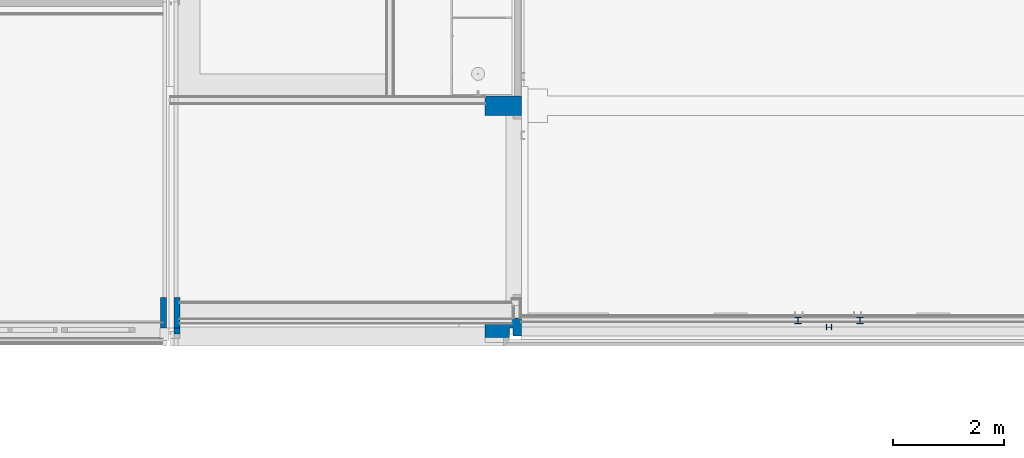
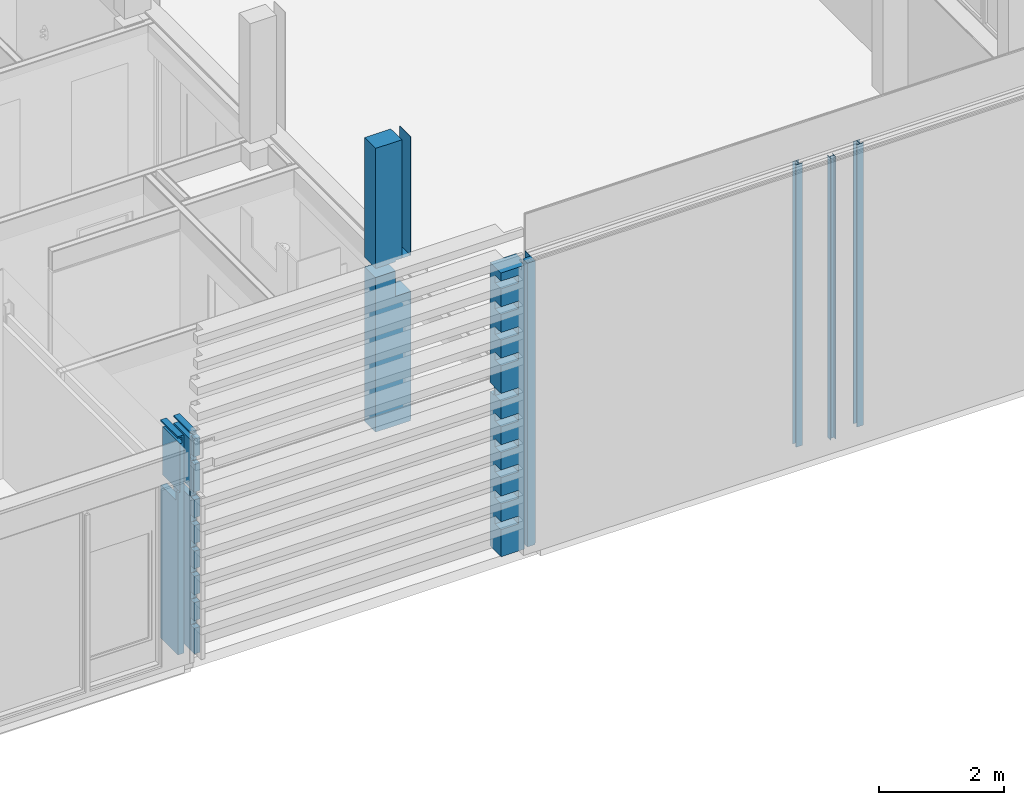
# One storey, part 6 of 109: 7 columns.
"""IFC2X3 building model written with IfcOpenShell, lengths in millimetres."""

from ifc_helpers import new_model, entity, si_unit, converted_unit, derived_unit, money_unit, direction, frame, origin_with_axes, place, context, subcontext, project, spatial, faceted_brep, material, type_object, element, save


model = new_model("IFC2X3")

# Units and contexts
model_context = context("Model", 3, precision=0.01, world=origin_with_axes(), true_north=direction((0.0, 1.0)))
body_context = subcontext(model_context, "Body", "Model", "MODEL_VIEW")
ifc_project = project(units=[si_unit("LENGTHUNIT", "METRE", prefix="MILLI"), si_unit("AREAUNIT", "SQUARE_METRE"), si_unit("VOLUMEUNIT", "CUBIC_METRE"), converted_unit("PLANEANGLEUNIT", "DEGREE", entity("IfcPlaneAngleMeasure", 0.0174532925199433), si_unit("PLANEANGLEUNIT", "RADIAN"), dimensions=[0, 0, 0, 0, 0, 0, 0]), money_unit("EUR"), converted_unit("TIMEUNIT", "Year", entity("IfcTimeMeasure", 31557600.0), si_unit("TIMEUNIT", "SECOND"), dimensions=[0, 0, 1, 0, 0, 0, 0]), si_unit("MASSUNIT", "GRAM", prefix="KILO"), si_unit("THERMODYNAMICTEMPERATUREUNIT", "DEGREE_CELSIUS"), si_unit("LUMINOUSINTENSITYUNIT", "LUMEN"), si_unit("ENERGYUNIT", "JOULE", prefix="MEGA"), derived_unit("THERMALCONDUCTANCEUNIT", [(si_unit("POWERUNIT", "WATT"), 1), (si_unit("LENGTHUNIT", "METRE"), -1), (si_unit("THERMODYNAMICTEMPERATUREUNIT", "KELVIN"), -1)]), derived_unit("SPECIFICHEATCAPACITYUNIT", [(si_unit("ENERGYUNIT", "JOULE"), 1), (si_unit("MASSUNIT", "GRAM", prefix="KILO"), -1), (si_unit("THERMODYNAMICTEMPERATUREUNIT", "KELVIN"), -1)]), derived_unit("MASSDENSITYUNIT", [(si_unit("MASSUNIT", "GRAM", prefix="KILO"), 1), (si_unit("VOLUMEUNIT", "CUBIC_METRE"), -1)])], contexts=[model_context])

# Site, building, storey
site_placement = place(None, origin_with_axes())
site = spatial("IfcSite", under=ifc_project, at=site_placement, Name="<site naam>", CompositionType="ELEMENT")
building_placement = place(site_placement, origin_with_axes())
building = spatial("IfcBuilding", under=site, at=building_placement, Name="<Naam gebouw>", CompositionType="ELEMENT")
storey_placement = place(building_placement, origin_with_axes())
storey = spatial("IfcBuildingStorey", under=building, at=storey_placement, Name="00 Begane grond", CompositionType="ELEMENT", Elevation=0.0)

# Columns
ifc_material_1 = material(Name="betonblok C")
column_type_1 = type_object("IfcColumnType", Name="betonblok C 350 x 550", PredefinedType="COLUMN")
column_1_placement = place(storey_placement, frame((52000.00000000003, 275.0000000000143, 0.0), z_axis=(0.0, 0.0, 1.0), x_axis=(1.0, 0.0, 0.0)))
element("IfcColumn", 1, at=column_1_placement, inside=storey, type_object=column_type_1, material=ifc_material_1, Name="28_Kolom_betonblok", ObjectType="COLUMN", context=body_context, shape_type="Brep", body=[
    faceted_brep([(-174.9999999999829, -224.9546346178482, 2978.0), (-174.9999999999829, -224.9546346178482, 3157.5), (-135.5510420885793, -224.9546346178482, 3157.5), (-135.5510420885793, -224.9546346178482, 3158.0), (-64.99999999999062, -224.9546346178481, 3158.0), (-64.99999999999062, -224.9546346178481, 2978.0), (-174.9999999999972, -275.0000000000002, 0.0), (-174.9999999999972, -275.0000000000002, 3157.5), (-174.9999999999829, 275.0000000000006, 2978.0), (-174.9999999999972, 275.0000000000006, 0.0), (-135.5465402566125, -275.0000000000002, 3157.5), (-135.5960155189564, 275.0000000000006, 4100.0), (-135.5960155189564, 275.0000000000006, 3158.0), (-135.5465402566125, -275.0000000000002, 4100.0), (-64.99999999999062, 275.0000000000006, 3158.0), (-64.99999999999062, 275.0000000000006, 4100.0), (-64.99999999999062, -274.5000000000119, 4100.0), (-64.99999999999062, -274.5000000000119, 4220.0), (-64.99999999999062, 275.0000000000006, 4220.0), (-64.99999999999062, 275.0000000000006, 4250.0), (-64.99999999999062, -275.0000000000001, 4250.0), (-64.99999999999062, -275.0000000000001, 0.0), (-64.99999999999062, 275.0000000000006, 0.0), (-64.99999999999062, 275.0000000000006, 2978.0), (-174.9999999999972, -275.0000000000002, 4250.0), (-174.9999999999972, -275.0000000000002, 4220.0), (-95.50000000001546, -275.0000000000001, 4220.0), (-95.50000000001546, -275.0000000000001, 4100.0), (-95.50000000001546, -274.5000000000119, 4100.0), (-95.50000000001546, -274.5000000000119, 4220.0), (-174.9999999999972, 275.0000000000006, 4220.0), (-174.9999999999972, 275.0000000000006, 4250.0)], [[[0, 1, 2, 3, 4, 5]], [[6, 7, 1, 0, 8, 9]], [[10, 2, 1, 7]], [[11, 12, 3, 2, 10, 13]], [[4, 3, 12, 14]], [[14, 15, 16, 17, 18, 19, 20, 21, 22, 23, 5, 4]], [[8, 0, 5, 23]], [[13, 10, 7, 6, 21, 20, 24, 25, 26, 27]], [[22, 9, 8, 23]], [[21, 6, 9, 22]], [[14, 12, 11, 15]], [[15, 11, 13, 27, 28, 16]], [[28, 29, 17, 16]], [[26, 25, 30, 18, 17, 29]], [[31, 19, 18, 30]], [[19, 31, 24, 20]], [[24, 31, 30, 25]], [[29, 28, 27, 26]]]),
    faceted_brep([(174.9999999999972, -264.0893218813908, 649.9999999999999), (174.9999999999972, -264.0893218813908, 500.0), (174.9999999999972, -275.0000000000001, 500.0), (174.9999999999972, -275.0000000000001, 0.0), (174.9999999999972, 275.0000000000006, 0.0), (174.9999999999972, 275.0000000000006, 2978.0), (174.9999999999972, -224.9546346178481, 2978.0), (174.9999999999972, -224.9546346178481, 3158.0), (174.9999999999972, 275.0000000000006, 3158.0), (174.9999999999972, 275.0000000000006, 4250.0), (174.9999999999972, -264.0893218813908, 4250.0), (174.9999999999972, -264.0893218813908, 4187.5), (174.9999999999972, -275.0000000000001, 4187.5), (174.9999999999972, -275.0000000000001, 3837.5), (174.9999999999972, -264.0893218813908, 3837.5), (174.9999999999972, -264.0893218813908, 3687.5), (174.9999999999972, -275.0000000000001, 3687.5), (174.9999999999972, -275.0000000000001, 3150.0), (174.9999999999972, -264.0893218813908, 3150.0), (174.9999999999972, -264.0893218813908, 3000.0), (174.9999999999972, -275.0000000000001, 3000.0), (174.9999999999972, -275.0000000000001, 2650.0), (174.9999999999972, -264.0893218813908, 2650.0), (174.9999999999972, -264.0893218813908, 2500.0), (174.9999999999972, -275.0000000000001, 2500.0), (174.9999999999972, -275.0000000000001, 2150.0), (174.9999999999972, -264.0893218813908, 2150.0), (174.9999999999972, -264.0893218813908, 2000.0), (174.9999999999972, -275.0000000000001, 2000.0), (174.9999999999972, -275.0000000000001, 1660.0), (174.9999999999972, -264.0893218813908, 1660.0), (174.9999999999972, -264.0893218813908, 1510.0), (174.9999999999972, -275.0000000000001, 1510.0), (174.9999999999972, -275.0000000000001, 1150.0), (174.9999999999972, -264.0893218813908, 1150.0), (174.9999999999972, -264.0893218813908, 1000.0), (174.9999999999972, -275.0000000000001, 1000.0), (174.9999999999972, -275.0000000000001, 649.9999999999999), (65.00000000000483, -264.0893218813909, 500.0), (65.00000000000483, -264.0893218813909, 649.9999999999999), (65.00000000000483, -275.0000000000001, 500.0), (65.00000000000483, -275.0000000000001, 0.0), (65.00000000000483, 275.0000000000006, 0.0), (65.00000000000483, 275.0000000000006, 2978.0), (65.00000000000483, -224.9546346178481, 2978.0), (65.00000000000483, -224.9546346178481, 3158.0), (65.00000000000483, 275.0000000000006, 3158.0), (65.00000000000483, 275.0000000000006, 4100.0), (174.3999999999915, 275.0000000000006, 4100.0), (174.3999999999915, 275.0000000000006, 4220.0), (65.00000000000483, 275.0000000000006, 4220.0), (65.00000000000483, 275.0000000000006, 4250.0), (65.00000000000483, -264.0893218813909, 4250.0), (174.3999999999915, -264.0893218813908, 4187.5), (65.00000000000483, -264.0893218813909, 4220.0), (174.3999999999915, -264.0893218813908, 4220.0), (65.00000000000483, -275.0000000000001, 4187.5), (174.3999999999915, -274.5000000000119, 4187.5), (65.00000000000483, -274.5000000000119, 4187.5), (65.00000000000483, -275.0000000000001, 3837.5), (65.00000000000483, -264.0893218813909, 3837.5), (65.00000000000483, -264.0893218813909, 3687.5), (65.00000000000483, -275.0000000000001, 3687.5), (65.00000000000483, -275.0000000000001, 3150.0), (65.00000000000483, -264.0893218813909, 3150.0), (65.00000000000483, -264.0893218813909, 3000.0), (65.00000000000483, -275.0000000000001, 3000.0), (65.00000000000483, -275.0000000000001, 2650.0), (65.00000000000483, -264.0893218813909, 2650.0), (65.00000000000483, -264.0893218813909, 2500.0), (65.00000000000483, -275.0000000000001, 2500.0), (65.00000000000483, -275.0000000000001, 2150.0), (65.00000000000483, -264.0893218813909, 2150.0), (65.00000000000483, -264.0893218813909, 2000.0), (65.00000000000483, -275.0000000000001, 2000.0), (65.00000000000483, -275.0000000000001, 1660.0), (65.00000000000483, -264.0893218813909, 1660.0), (65.00000000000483, -264.0893218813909, 1510.0), (65.00000000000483, -275.0000000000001, 1510.0), (65.00000000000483, -275.0000000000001, 1150.0), (65.00000000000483, -264.0893218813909, 1150.0), (65.00000000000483, -264.0893218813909, 1000.0), (65.00000000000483, -275.0000000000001, 1000.0), (65.00000000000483, -275.0000000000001, 649.9999999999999), (65.00000000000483, -274.5000000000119, 4100.0), (174.3999999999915, -274.5000000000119, 4100.0)], [[[0, 1, 2, 3, 4, 5, 6, 7, 8, 9, 10, 11, 12, 13, 14, 15, 16, 17, 18, 19, 20, 21, 22, 23, 24, 25, 26, 27, 28, 29, 30, 31, 32, 33, 34, 35, 36, 37]], [[38, 1, 0, 39]], [[40, 2, 1, 38]], [[3, 2, 40, 41]], [[42, 4, 3, 41]], [[4, 42, 43, 5]], [[43, 44, 6, 5]], [[44, 45, 7, 6]], [[7, 45, 46, 8]], [[8, 46, 47, 48, 49, 50, 51, 9]], [[51, 52, 10, 9]], [[53, 11, 10, 52, 54, 55]], [[56, 12, 11, 53, 57, 58]], [[56, 59, 13, 12]], [[60, 14, 13, 59]], [[61, 15, 14, 60]], [[62, 16, 15, 61]], [[17, 16, 62, 63]], [[64, 18, 17, 63]], [[65, 19, 18, 64]], [[66, 20, 19, 65]], [[66, 67, 21, 20]], [[68, 22, 21, 67]], [[69, 23, 22, 68]], [[70, 24, 23, 69]], [[70, 71, 25, 24]], [[72, 26, 25, 71]], [[73, 27, 26, 72]], [[74, 28, 27, 73]], [[74, 75, 29, 28]], [[76, 30, 29, 75]], [[77, 31, 30, 76]], [[78, 32, 31, 77]], [[78, 79, 33, 32]], [[80, 34, 33, 79]], [[81, 35, 34, 80]], [[82, 36, 35, 81]], [[82, 83, 37, 36]], [[39, 0, 37, 83]], [[38, 39, 83, 82, 81, 80, 79, 78, 77, 76, 75, 74, 73, 72, 71, 70, 69, 68, 67, 66, 65, 64, 63, 62, 61, 60, 59, 56, 58, 84, 47, 46, 45, 44, 43, 42, 41, 40]], [[84, 85, 48, 47]], [[57, 53, 55, 49, 48, 85]], [[49, 55, 54, 50]], [[50, 54, 52, 51]], [[84, 58, 57, 85]]]),
])
column_type_2 = type_object("IfcColumnType", Name="betonblok C 350 x 650", PredefinedType="COLUMN")
column_2_placement = place(storey_placement, frame((58000.00000000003, 0.0, -30.0), z_axis=(0.0, 0.0, 1.0), x_axis=(0.0, -1.0, 0.0)))
element("IfcColumn", 2, at=column_2_placement, inside=storey, type_object=column_type_2, material=ifc_material_1, Name="28_Kolom_betonblok", ObjectType="COLUMN", context=body_context, shape_type="Brep", body=[
    faceted_brep([(-175.0000000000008, 324.9999999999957, 2517.5), (-10.91067811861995, 324.9999999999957, 2517.5), (-10.91067811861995, 324.9999999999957, 3217.5), (-175.0000000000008, 324.9999999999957, 3217.5), (-174.999999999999, 325.0000000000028, 5524.999999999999), (149.0893327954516, 325.0000000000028, 5524.999999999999), (149.0893218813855, 325.0000000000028, 29.99999858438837), (-175.0000000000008, 325.0000000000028, 30.0), (-10.91067811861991, 44.9999999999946, 2517.5), (-175.0000000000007, 44.9999999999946, 2517.5), (-10.91067811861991, 44.9999999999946, 3217.5), (-175.0000000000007, 44.9999999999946, 3217.5), (-175.0000000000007, 44.9999999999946, 3188.0), (-175.0000000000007, -325.0000000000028, 3188.0), (-174.9999999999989, -324.9999999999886, 5524.999999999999), (-174.9999999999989, 157.7828447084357, 5524.999999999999), (-175.0000000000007, 157.7828447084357, 3218.0), (-175.0000000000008, 317.7828447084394, 3218.0), (-174.999999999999, 317.7828447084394, 5524.999999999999), (149.0893329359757, 174.9999889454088, 5524.999999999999), (0.0, 317.7828447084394, 5524.999999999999), (0.0, 174.9999999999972, 5524.999999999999), (149.0893329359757, 174.9999889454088, 0.0), (149.0893218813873, 317.7828447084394, 0.0), (149.0893218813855, 317.7828447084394, 29.99999858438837), (-175.0000000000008, 317.7828447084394, 29.9999986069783), (-175.0000000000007, 44.9999999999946, 3008.0), (-175.0000000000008, 317.7828447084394, 0.0), (-175.0000000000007, -325.0000000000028, 0.0), (-175.0000000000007, -325.0000000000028, 3008.0), (-50.04536538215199, 44.9999999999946, 3188.0), (-50.04536538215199, 44.9999999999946, 3008.0), (-50.04536538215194, -325.0000000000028, 3188.0), (-10.91067811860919, -325.0000000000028, 530.0), (-10.91067811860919, -325.0000000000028, 679.9999999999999), (175.0000000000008, -325.0000000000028, 679.9999999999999), (175.0000000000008, -325.0000000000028, 1030.0), (-10.91067811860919, -325.0000000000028, 1030.0), (-10.91067811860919, -325.0000000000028, 1180.0), (175.0000000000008, -325.0000000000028, 1180.0), (175.0000000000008, -325.0000000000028, 1540.0), (-10.91067811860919, -325.0000000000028, 1540.0), (-10.91067811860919, -325.0000000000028, 1690.0), (175.0000000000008, -325.0000000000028, 1690.0), (175.0000000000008, -325.0000000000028, 2030.0), (-10.91067811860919, -325.0000000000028, 2030.0), (-10.91067811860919, -325.0000000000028, 2180.0), (175.0000000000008, -325.0000000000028, 2180.0), (175.0000000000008, -325.0000000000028, 2530.0), (-10.91067811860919, -325.0000000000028, 2530.0), (-10.91067811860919, -325.0000000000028, 2680.0), (175.0000000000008, -325.0000000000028, 2680.0), (175.0000000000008, -325.0000000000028, 3030.0), (-10.91067811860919, -325.0000000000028, 3030.0), (-10.91067811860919, -325.0000000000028, 3180.0), (175.0000000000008, -325.0000000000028, 3180.0), (175.0000000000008, -325.0000000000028, 3717.5), (-10.91067811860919, -325.0000000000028, 3717.5), (-10.91067811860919, -325.0000000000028, 3867.5), (175.0000000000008, -324.9999999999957, 3867.5), (175.0000000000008, -324.9999999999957, 4217.5), (-10.91067811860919, -325.0000000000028, 4217.5), (-10.91067811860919, -325.0000000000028, 4367.500000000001), (175.0000000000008, -324.9999999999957, 4367.500000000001), (175.0000000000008, -324.9999999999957, 4717.499999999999), (-10.91067811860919, -325.0000000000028, 4717.5), (-10.91067811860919, -325.0000000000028, 4867.500000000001), (175.0000000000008, -324.9999999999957, 4867.500000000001), (175.0000000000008, -324.9999999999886, 5217.5), (-10.91067811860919, -325.0000000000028, 5217.5), (-10.91067811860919, -325.0000000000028, 5367.500000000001), (175.0000000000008, -324.9999999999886, 5367.500000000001), (175.0000000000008, -324.9999999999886, 5524.999999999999), (-50.04536538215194, -325.0000000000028, 3008.0), (175.0000000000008, -325.0000000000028, 0.0), (175.0000000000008, -325.0000000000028, 530.0), (0.0, 109.9999999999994, 5524.999999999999), (0.0, 157.7828447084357, 5524.999999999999), (175.0000000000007, 110.0000042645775, 5524.999999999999), (0.0, 157.7828447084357, 3218.0), (0.0, 317.7828447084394, 3218.0), (0.0, 174.9999999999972, 3218.0), (0.0, 174.9999999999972, 0.0), (0.0, 109.9999999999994, 0.0), (175.0000000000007, 110.0000042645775, 0.0), (-10.91067811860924, 0.0, 679.9999999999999), (-10.91067811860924, 0.0, 530.0), (175.0000000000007, 0.0, 679.9999999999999), (175.0000000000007, 0.0, 530.0), (175.0000000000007, 0.0, 5367.500000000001), (175.0000000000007, 0.0, 5217.5), (175.0000000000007, 0.0, 4867.500000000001), (175.0000000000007, 0.0, 4717.5), (175.0000000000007, 0.0, 4367.500000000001), (175.0000000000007, 0.0, 4217.5), (175.0000000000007, 0.0, 3867.5), (175.0000000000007, 0.0, 3717.5), (175.0000000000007, 0.0, 3180.0), (175.0000000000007, 0.0, 3030.0), (175.0000000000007, 0.0, 2680.0), (175.0000000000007, 0.0, 2530.0), (175.0000000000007, 0.0, 2180.0), (175.0000000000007, 0.0, 2030.0), (175.0000000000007, 0.0, 1690.0), (175.0000000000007, 0.0, 1540.0), (175.0000000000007, 0.0, 1180.0), (175.0000000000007, 0.0, 1030.0), (-10.91067811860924, 0.0, 1030.0), (-10.91067811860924, 0.0, 1180.0), (-10.91067811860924, 0.0, 1540.0), (-10.91067811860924, 0.0, 1690.0), (-10.91067811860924, 0.0, 2030.0), (-10.91067811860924, 0.0, 2180.0), (-10.91067811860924, 0.0, 2530.0), (-10.91067811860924, 0.0, 2680.0), (-10.91067811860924, 0.0, 3030.0), (-10.91067811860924, 0.0, 3180.0), (-10.91067811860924, 0.0, 3717.5), (-10.91067811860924, 0.0, 3867.5), (-10.91067811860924, 0.0, 4217.5), (-10.91067811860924, 0.0, 4367.500000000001), (-10.91067811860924, 0.0, 4717.5), (-10.91067811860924, 0.0, 4867.500000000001), (-10.91067811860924, 0.0, 5217.5), (-10.91067811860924, 0.0, 5367.500000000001)], [[[0, 1, 2, 3, 4, 5, 6, 7]], [[8, 1, 0, 9]], [[10, 2, 1, 8]], [[10, 11, 3, 2]], [[3, 11, 12, 13, 14, 15, 16, 17, 18, 4]], [[19, 5, 4, 18, 20, 21]], [[6, 5, 19, 22, 23, 24]], [[6, 24, 25, 7]], [[26, 9, 0, 7, 25, 27, 28, 29]], [[30, 12, 11, 10, 8, 9, 26, 31]], [[13, 12, 30, 32]], [[33, 34, 35, 36, 37, 38, 39, 40, 41, 42, 43, 44, 45, 46, 47, 48, 49, 50, 51, 52, 53, 54, 55, 56, 57, 58, 59, 60, 61, 62, 63, 64, 65, 66, 67, 68, 69, 70, 71, 72, 14, 13, 32, 73, 29, 28, 74, 75]], [[76, 77, 15, 14, 72, 78]], [[16, 15, 77, 79]], [[80, 17, 16, 79, 81]], [[80, 20, 18, 17]], [[81, 21, 20, 80]], [[22, 19, 21, 81, 82]], [[74, 28, 27, 23, 22, 82, 83, 84]], [[24, 23, 27, 25]], [[73, 31, 26, 29]], [[32, 30, 31, 73]], [[85, 34, 33, 86]], [[85, 87, 35, 34]], [[87, 88, 75, 74, 84, 78, 72, 71, 89, 90, 68, 67, 91, 92, 64, 63, 93, 94, 60, 59, 95, 96, 56, 55, 97, 98, 52, 51, 99, 100, 48, 47, 101, 102, 44, 43, 103, 104, 40, 39, 105, 106, 36, 35]], [[37, 36, 106, 107]], [[108, 38, 37, 107]], [[108, 105, 39, 38]], [[41, 40, 104, 109]], [[110, 42, 41, 109]], [[110, 103, 43, 42]], [[45, 44, 102, 111]], [[112, 46, 45, 111]], [[112, 101, 47, 46]], [[49, 48, 100, 113]], [[114, 50, 49, 113]], [[114, 99, 51, 50]], [[53, 52, 98, 115]], [[116, 54, 53, 115]], [[116, 97, 55, 54]], [[57, 56, 96, 117]], [[118, 58, 57, 117]], [[118, 95, 59, 58]], [[61, 60, 94, 119]], [[120, 62, 61, 119]], [[120, 93, 63, 62]], [[65, 64, 92, 121]], [[122, 66, 65, 121]], [[122, 91, 67, 66]], [[69, 68, 90, 123]], [[124, 70, 69, 123]], [[124, 89, 71, 70]], [[33, 75, 88, 86]], [[79, 77, 76, 83, 82, 81]], [[83, 76, 78, 84]], [[86, 88, 87, 85]], [[123, 90, 89, 124]], [[121, 92, 91, 122]], [[119, 94, 93, 120]], [[117, 96, 95, 118]], [[115, 98, 97, 116]], [[113, 100, 99, 114]], [[111, 102, 101, 112]], [[109, 104, 103, 110]], [[107, 106, 105, 108]]]),
])
column_3_placement = place(storey_placement, frame((58000.00000000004, 4000.000000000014, -30.0), z_axis=(0.0, 0.0, 1.0), x_axis=(0.0, -1.0, 0.0)))
element("IfcColumn", 3, at=column_3_placement, inside=storey, type_object=column_type_2, material=ifc_material_1, Name="28_Kolom_betonblok", ObjectType="COLUMN", context=body_context, shape_type="Brep", body=[
    faceted_brep([(-175.0000000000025, -325.0000000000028, 3008.0), (-175.0000000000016, 44.99999999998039, 3008.0), (-175.0000000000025, 44.99999999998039, 2517.5), (-174.9999999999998, 324.9999999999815, 2517.5), (-174.9999999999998, 325.0000000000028, 30.0), (-175.0000000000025, 317.7828447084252, 29.99999888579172), (-174.9999999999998, 317.7828447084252, 0.0), (-174.9999999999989, -325.0000000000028, 0.0), (175.0000000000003, -325.0000000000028, 3008.0), (174.9999999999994, 44.99999999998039, 3008.0), (175.0000000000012, 44.99999999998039, 2517.5), (175.0000000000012, 324.9999999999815, 2517.5), (175.0000000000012, 325.0000000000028, 30.0), (175.0000000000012, 317.7828447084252, 29.99999886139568), (174.9999999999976, 317.7828447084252, 0.0), (175.0000000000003, -325.0000000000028, 0.0)], [[[0, 1, 2, 3, 4, 5, 6, 7]], [[8, 9, 1, 0]], [[10, 2, 1, 9]], [[10, 11, 3, 2]], [[4, 3, 11, 12]], [[12, 13, 5, 4]], [[13, 14, 6, 5]], [[15, 7, 6, 14]], [[7, 15, 8, 0]], [[11, 10, 9, 8, 15, 14, 13, 12]]]),
    faceted_brep([(-174.9999999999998, 317.7828447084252, 3218.0), (-174.9999999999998, 317.7828447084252, 5524.999999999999), (-174.9999999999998, 324.9999999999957, 5524.999999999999), (-174.9999999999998, 324.9999999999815, 3217.5), (-175.0000000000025, 44.99999999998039, 3217.5), (-175.0000000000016, 44.99999999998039, 3188.0), (-175.0000000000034, -325.0000000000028, 3188.0), (-174.9999999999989, -325.0000000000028, 5524.999999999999), (-174.9999999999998, 157.7828447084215, 5524.999999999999), (-174.9999999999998, 157.7828447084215, 3218.0), (175.0000000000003, 317.7828447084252, 3218.0), (175.0000000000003, 317.7828447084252, 5524.999999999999), (175.0000000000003, 324.9999999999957, 5524.999999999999), (175.0000000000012, 324.9999999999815, 3217.5), (175.0000000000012, 44.99999999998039, 3217.5), (175.0000000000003, 44.99999999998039, 3188.0), (175.0000000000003, -325.0000000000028, 3188.0), (175.0000000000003, -325.0000000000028, 5524.999999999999), (175.0000000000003, 157.7828447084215, 5524.999999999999), (175.0000000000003, 157.7828447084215, 3218.0)], [[[0, 1, 2, 3, 4, 5, 6, 7, 8, 9]], [[10, 11, 1, 0]], [[11, 12, 2, 1]], [[3, 2, 12, 13]], [[14, 4, 3, 13]], [[15, 5, 4, 14]], [[6, 5, 15, 16]], [[16, 17, 7, 6]], [[17, 18, 8, 7]], [[9, 8, 18, 19]], [[9, 19, 10, 0]], [[13, 12, 11, 10, 19, 18, 17, 16, 15, 14]]]),
])
ifc_material_2 = material(Name="staal C")
column_type_3 = type_object("IfcColumnType", Name="Profiel H algemeen 100 x 96", PredefinedType="COLUMN")
column_4_placement = place(storey_placement, frame((63870.00000000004, 10.91067811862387, 0.0), z_axis=(0.0, 0.0, 1.0), x_axis=(0.0, 1.0, 0.0)))
element("IfcColumn", 4, at=column_4_placement, inside=storey, type_object=column_type_3, material=ifc_material_2, Name="28_Kolom_Profiel", ObjectType="COLUMN", context=body_context, shape_type="Brep", body=[
    faceted_brep([(-50.00000010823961, -48.00000037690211, 5494.999999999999), (-50.00000010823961, -48.00000037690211, 0.0), (50.00000010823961, -48.00000037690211, 0.0), (50.00000010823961, -48.00000037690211, 5494.999999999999), (-50.00000016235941, -39.99999789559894, 5494.999999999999), (-50.00000016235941, -39.99999789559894, 0.0), (-2.499999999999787, -39.99999789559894, 0.0), (-2.499999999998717, 39.99999789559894, 0.0), (-50.0000001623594, 39.99999789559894, 0.0), (-50.00000010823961, 48.00000037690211, 0.0), (50.00000010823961, 48.00000037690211, 0.0), (50.00000016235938, 39.99999789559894, 0.0), (2.500000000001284, 39.99999789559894, 0.0), (2.500000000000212, -39.99999789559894, 0.0), (50.00000016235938, -39.99999789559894, 0.0), (50.00000016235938, -39.99999789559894, 5494.999999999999), (2.500000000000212, -39.99999789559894, 5494.999999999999), (2.500000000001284, 39.99999789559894, 5494.999999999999), (50.00000016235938, 39.99999789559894, 5494.999999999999), (50.00000010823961, 48.00000037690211, 5494.999999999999), (-50.00000010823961, 48.00000037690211, 5494.999999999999), (-50.0000001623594, 39.99999789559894, 5494.999999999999), (-2.499999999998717, 39.99999789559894, 5494.999999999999), (-2.499999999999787, -39.99999789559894, 5494.999999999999)], [[[0, 1, 2, 3]], [[4, 5, 1, 0]], [[2, 1, 5, 6, 7, 8, 9, 10, 11, 12, 13, 14]], [[3, 2, 14, 15]], [[4, 0, 3, 15, 16, 17, 18, 19, 20, 21, 22, 23]], [[23, 6, 5, 4]], [[22, 7, 6, 23]], [[21, 8, 7, 22]], [[20, 9, 8, 21]], [[19, 10, 9, 20]], [[18, 11, 10, 19]], [[17, 12, 11, 18]], [[16, 13, 12, 17]], [[15, 14, 13, 16]]]),
])
column_type_4 = type_object("IfcColumnType", Name="Profiel H algemeen 120 x 120", PredefinedType="COLUMN")
column_5_placement = place(storey_placement, frame((63310.00000000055, 131.9092315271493, 0.0), z_axis=(0.0, 0.0, 1.0), x_axis=(-1.0, 0.0, 0.0)))
element("IfcColumn", 5, at=column_5_placement, inside=storey, type_object=column_type_4, material=ifc_material_2, Name="28_Kolom_Profiel", ObjectType="COLUMN", context=body_context, shape_type="Brep", body=[
    faceted_brep([(-60.00000000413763, -60.00152831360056, 5494.999999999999), (-60.00000000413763, -60.00152831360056, 0.0), (60.00000000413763, -60.00152831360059, 0.0), (60.00000000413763, -60.00152831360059, 5494.999999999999), (-60.00000000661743, -49.00152820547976, 5494.999999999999), (-60.00000000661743, -49.00152820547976, 0.0), (-3.250000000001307, -49.00152820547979, 0.0), (-3.250000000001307, 49.00152820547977, 0.0), (-60.00000000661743, 49.00152820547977, 0.0), (-60.00000000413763, 60.0015283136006, 0.0), (60.00000000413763, 60.00152831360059, 0.0), (60.00000000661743, 49.00152820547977, 0.0), (3.250000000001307, 49.00152820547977, 0.0), (3.250000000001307, -49.00152820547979, 0.0), (60.00000000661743, -49.00152820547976, 0.0), (60.00000000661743, -49.00152820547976, 5494.999999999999), (3.250000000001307, -49.00152820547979, 5494.999999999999), (3.250000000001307, 49.00152820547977, 5494.999999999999), (60.00000000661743, 49.00152820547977, 5494.999999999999), (60.00000000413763, 60.00152831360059, 5494.999999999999), (-60.00000000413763, 60.0015283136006, 5494.999999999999), (-60.00000000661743, 49.00152820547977, 5494.999999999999), (-3.250000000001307, 49.00152820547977, 5494.999999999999), (-3.250000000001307, -49.00152820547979, 5494.999999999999)], [[[0, 1, 2, 3]], [[4, 5, 1, 0]], [[2, 1, 5, 6, 7, 8, 9, 10, 11, 12, 13, 14]], [[3, 2, 14, 15]], [[4, 0, 3, 15, 16, 17, 18, 19, 20, 21, 22, 23]], [[23, 6, 5, 4]], [[22, 7, 6, 23]], [[21, 8, 7, 22]], [[20, 9, 8, 21]], [[19, 10, 9, 20]], [[18, 11, 10, 19]], [[17, 12, 11, 18]], [[16, 13, 12, 17]], [[15, 14, 13, 16]]]),
])
column_6_placement = place(storey_placement, frame((64429.99999999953, 131.9092315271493, 0.0), z_axis=(0.0, 0.0, 1.0), x_axis=(-1.0, 0.0, 0.0)))
element("IfcColumn", 6, at=column_6_placement, inside=storey, type_object=column_type_4, material=ifc_material_2, Name="28_Kolom_Profiel", ObjectType="COLUMN", context=body_context, shape_type="Brep", body=[
    faceted_brep([(-60.00000000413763, -60.00152831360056, 5494.999999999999), (-60.00000000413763, -60.00152831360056, 0.0), (60.00000000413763, -60.00152831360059, 0.0), (60.00000000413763, -60.00152831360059, 5494.999999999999), (-60.00000000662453, -49.00152820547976, 5494.999999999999), (-60.00000000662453, -49.00152820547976, 0.0), (-3.249999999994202, -49.00152820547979, 0.0), (-3.249999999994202, 49.00152820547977, 0.0), (-60.00000000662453, 49.00152820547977, 0.0), (-60.00000000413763, 60.0015283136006, 0.0), (60.00000000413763, 60.00152831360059, 0.0), (60.00000000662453, 49.00152820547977, 0.0), (3.249999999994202, 49.00152820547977, 0.0), (3.249999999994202, -49.00152820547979, 0.0), (60.00000000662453, -49.00152820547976, 0.0), (60.00000000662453, -49.00152820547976, 5494.999999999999), (3.249999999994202, -49.00152820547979, 5494.999999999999), (3.249999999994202, 49.00152820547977, 5494.999999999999), (60.00000000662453, 49.00152820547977, 5494.999999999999), (60.00000000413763, 60.00152831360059, 5494.999999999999), (-60.00000000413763, 60.0015283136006, 5494.999999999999), (-60.00000000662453, 49.00152820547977, 5494.999999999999), (-3.249999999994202, 49.00152820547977, 5494.999999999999), (-3.249999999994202, -49.00152820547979, 5494.999999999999)], [[[0, 1, 2, 3]], [[4, 5, 1, 0]], [[2, 1, 5, 6, 7, 8, 9, 10, 11, 12, 13, 14]], [[3, 2, 14, 15]], [[4, 0, 3, 15, 16, 17, 18, 19, 20, 21, 22, 23]], [[23, 6, 5, 4]], [[22, 7, 6, 23]], [[21, 8, 7, 22]], [[20, 9, 8, 21]], [[19, 10, 9, 20]], [[18, 11, 10, 19]], [[17, 12, 11, 18]], [[16, 13, 12, 17]], [[15, 14, 13, 16]]]),
])
column_type_5 = type_object("IfcColumnType", Name="betonblok C 110 x 108", PredefinedType="COLUMN")
column_7_placement = place(storey_placement, frame((52120.00004750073, -53.83731337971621, 0.0), z_axis=(0.0, 0.0, 1.0), x_axis=(1.0, 0.0, 0.0)))
element("IfcColumn", 7, at=column_7_placement, inside=storey, type_object=column_type_5, material=ifc_material_1, Name="28_Kolom_betonblok", ObjectType="COLUMN", context=body_context, shape_type="Brep", body=[
    faceted_brep([(-54.99997669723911, 53.83731337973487, 0.0), (-55.0000475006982, 53.83731337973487, 500.0), (54.99997669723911, 53.83731337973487, 500.0), (54.99997669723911, 53.83731337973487, 0.0), (-54.99997669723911, -53.83731337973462, 0.0), (-55.0000475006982, -53.83731337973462, 500.0), (54.99997669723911, -53.83731337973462, 500.0), (54.99997669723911, -53.83731337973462, 0.0)], [[[0, 1, 2, 3]], [[4, 5, 1, 0]], [[5, 6, 2, 1]], [[3, 2, 6, 7]], [[7, 4, 0, 3]], [[7, 6, 5, 4]]]),
    faceted_brep([(-55.0000475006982, 53.83731337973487, 3150.0), (-55.0000475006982, 53.83731337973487, 3687.5), (54.99997669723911, 53.83731337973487, 3687.5), (54.99997669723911, 53.83731337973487, 3150.0), (-55.00001290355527, -53.83731337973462, 3687.5), (-55.0000475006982, -53.83731337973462, 3150.0), (54.99997669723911, -53.83731337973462, 3687.5), (54.99997669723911, -53.83731337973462, 3150.0)], [[[0, 1, 2, 3]], [[4, 1, 0, 5]], [[4, 6, 2, 1]], [[3, 2, 6, 7]], [[5, 0, 3, 7]], [[7, 6, 4, 5]]]),
    faceted_brep([(54.99997669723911, -53.83731337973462, 4187.5), (54.99997669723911, -53.83731337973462, 3837.5), (54.99997669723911, 53.83731337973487, 3837.5), (54.99997669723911, 53.83731337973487, 4187.5), (-54.99998072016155, -53.83731337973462, 4187.5), (-55.00000324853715, -53.83731337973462, 3837.5), (-55.0000475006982, 53.83731337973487, 3837.5), (-55.0000475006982, 53.83731337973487, 4187.5)], [[[0, 1, 2, 3]], [[4, 5, 1, 0]], [[6, 2, 1, 5]], [[3, 2, 6, 7]], [[4, 0, 3, 7]], [[6, 5, 4, 7]]]),
    faceted_brep([(54.99997669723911, -53.83731337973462, 3000.0), (54.99997669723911, -53.83731337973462, 2650.0), (54.99997669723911, 53.83731337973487, 2650.0), (54.99997669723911, 53.83731337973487, 3000.0), (-55.0000475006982, -53.83731337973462, 3000.0), (-55.0000475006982, -53.83731337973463, 2650.0), (-55.0000475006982, 53.83731337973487, 2650.0), (-55.0000475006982, 53.83731337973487, 3000.0)], [[[0, 1, 2, 3]], [[4, 5, 1, 0]], [[5, 6, 2, 1]], [[3, 2, 6, 7]], [[4, 0, 3, 7]], [[7, 6, 5, 4]]]),
    faceted_brep([(54.99997669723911, -53.83731337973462, 2500.0), (54.99997669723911, -53.83731337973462, 2150.0), (54.99997669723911, 53.83731337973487, 2150.0), (54.99997669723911, 53.83731337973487, 2500.0), (-55.0000475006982, -53.83731337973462, 2500.0), (-55.0000475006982, -53.83731337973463, 2150.0), (-55.0000475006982, 53.83731337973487, 2150.0), (-55.0000475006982, 53.83731337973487, 2500.0)], [[[0, 1, 2, 3]], [[4, 5, 1, 0]], [[5, 6, 2, 1]], [[3, 2, 6, 7]], [[4, 0, 3, 7]], [[7, 6, 5, 4]]]),
    faceted_brep([(54.99997669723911, -53.83731337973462, 2000.0), (54.99997669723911, -53.83731337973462, 1660.0), (54.99997669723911, 53.83731337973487, 1660.0), (54.99997669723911, 53.83731337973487, 2000.0), (-55.0000475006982, -53.83731337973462, 2000.0), (-55.0000475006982, -53.83731337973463, 1660.0), (-55.0000475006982, 53.83731337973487, 1660.0), (-55.0000475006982, 53.83731337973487, 2000.0)], [[[0, 1, 2, 3]], [[4, 5, 1, 0]], [[5, 6, 2, 1]], [[3, 2, 6, 7]], [[4, 0, 3, 7]], [[7, 6, 5, 4]]]),
    faceted_brep([(54.99997669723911, -53.83731337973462, 1510.0), (54.99997669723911, -53.83731337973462, 1150.0), (54.99997669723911, 53.83731337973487, 1150.0), (54.99997669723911, 53.83731337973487, 1510.0), (-55.0000475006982, -53.83731337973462, 1510.0), (-55.0000475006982, -53.83731337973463, 1150.0), (-55.0000475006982, 53.83731337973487, 1150.0), (-55.0000475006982, 53.83731337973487, 1510.0)], [[[0, 1, 2, 3]], [[4, 5, 1, 0]], [[5, 6, 2, 1]], [[3, 2, 6, 7]], [[4, 0, 3, 7]], [[7, 6, 5, 4]]]),
    faceted_brep([(54.99997669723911, -53.83731337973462, 1000.0), (54.99997669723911, -53.83731337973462, 649.9999999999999), (54.99997669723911, 53.83731337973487, 649.9999999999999), (54.99997669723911, 53.83731337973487, 1000.0), (-55.0000475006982, -53.83731337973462, 1000.0), (-55.0000475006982, -53.83731337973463, 649.9999999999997), (-55.0000475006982, 53.83731337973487, 649.9999999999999), (-55.0000475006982, 53.83731337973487, 1000.0)], [[[0, 1, 2, 3]], [[4, 5, 1, 0]], [[5, 6, 2, 1]], [[3, 2, 6, 7]], [[4, 0, 3, 7]], [[7, 6, 5, 4]]]),
])

save(model, "model.ifc")
